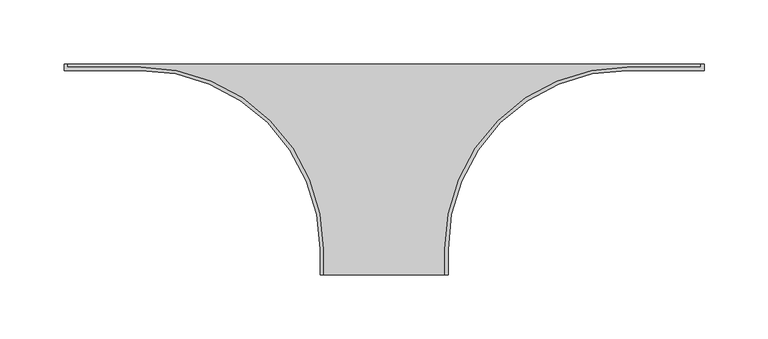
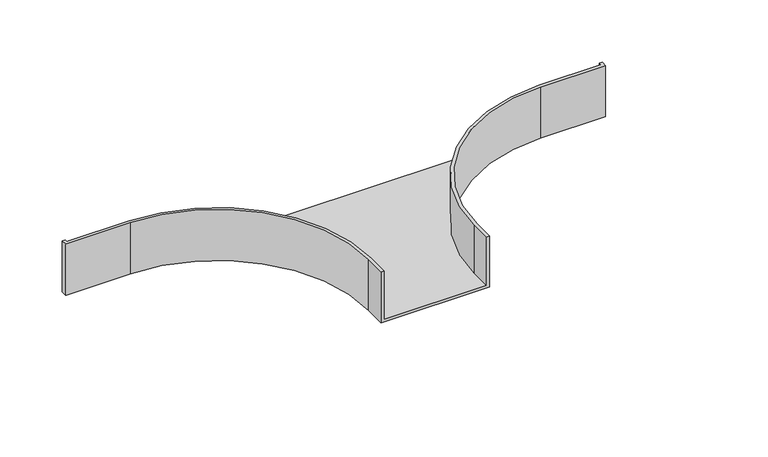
"""IFC4 building model written with IfcOpenShell, lengths in millimetres: cable carrier fitting geometry, BAKS_Tee_TKZD : TKZDCH50."""

from ifc_helpers import new_model, si_unit, frame, origin, place, context, project, spatial, polyline, circle_curve, source, transform, mapped, element, save
from ifc_brep_helpers import plane_surface, cylinder_surface, revolved_surface, advanced_brep


def cable_carrier_fitting_c29a8226(model_context):
    return source(origin(), model_context, "Body", "AdvancedBrep", [
        advanced_brep(
        [(-50.0, -145.08, 25.0), (-50.0, -165.08, 25.0), (-47.46, -165.08, 25.0), (-47.46, -145.08, 25.0), (-190.0, -2.54, 25.0), (-247.46, -2.54, 25.0), (-247.46, 0.0, 25.0), (-250.0, 0.0, 25.0), (-250.0, -5.08, 25.0), (-190.0, -5.08, 25.0), (50.0, -145.08, 25.0), (190.0, -5.08, 25.0), (250.0, -5.08, 25.0), (250.0, 0.0, 25.0), (247.46, 0.0, 25.0), (247.46, -2.54, 25.0), (190.0, -2.54, 25.0), (47.46, -145.08, 25.0), (47.46, -165.08, 25.0), (50.0, -165.08, 25.0), (-50.0, -145.08, -25.0), (-190.0, -5.08, -25.0), (-250.0, -5.08, -25.0), (-250.0, 0.0, -25.0), (250.0, 0.0, -25.0), (250.0, -5.08, -25.0), (190.0, -5.08, -25.0), (50.0, -145.08, -25.0), (50.0, -165.08, -25.0), (-50.0, -165.08, -25.0), (-50.0, -145.08, -22.46), (47.46, -165.08, -22.46), (-47.46, -165.08, -22.46), (-47.46, -145.08, -22.46), (-190.0, -2.54, -22.46), (-247.46, -2.54, -22.46), (-190.0, -5.08, -22.46), (50.0, -145.08, -22.46), (190.0, -5.08, -22.46), (247.46, -2.54, -22.46), (190.0, -2.54, -22.46), (47.46, -145.08, -22.46), (247.46, 0.0, -22.46), (-247.46, 0.0, -22.46)],
        [
            (0, 1),
            (1, 2),
            (2, 3),
            (3, 4, circle_curve(frame((-190.0, -145.08, 25.0), z_axis=(0.0, 0.0, 1.0), x_axis=(1.0, 0.0, 0.0)), 142.54)),
            (4, 5),
            (5, 6),
            (6, 7),
            (7, 8),
            (8, 9),
            (9, 0, circle_curve(frame((-190.0, -145.08, 25.0), z_axis=(0.0, 0.0, -1.0), x_axis=(1.0, 0.0, 0.0)), 140.0)),
            (10, 11, circle_curve(frame((190.0, -145.08, 25.0), z_axis=(0.0, 0.0, -1.0), x_axis=(1.0, 0.0, 0.0)), 140.0)),
            (11, 12),
            (12, 13),
            (13, 14),
            (14, 15),
            (15, 16),
            (16, 17, circle_curve(frame((190.0, -145.08, 25.0), z_axis=(0.0, 0.0, 1.0), x_axis=(1.0, 0.0, 0.0)), 142.54)),
            (17, 18),
            (18, 19),
            (19, 10),
            (20, 21, circle_curve(frame((-190.0, -145.08, -25.0), z_axis=(0.0, 0.0, 1.0), x_axis=(1.0, 0.0, 0.0)), 140.0)),
            (21, 22),
            (22, 23),
            (23, 24),
            (24, 25),
            (25, 26),
            (26, 27, circle_curve(frame((190.0, -145.08, -25.0), z_axis=(0.0, 0.0, 1.0), x_axis=(1.0, 0.0, 0.0)), 140.0)),
            (27, 28),
            (28, 29),
            (29, 20),
            (29, 1),
            (0, 30),
            (30, 20),
            (28, 19),
            (18, 31),
            (31, 32),
            (32, 2),
            (32, 33),
            (33, 3),
            (33, 34, circle_curve(frame((-190.0, -145.08, -22.46), z_axis=(0.0, 0.0, 1.0), x_axis=(1.0, 0.0, 0.0)), 142.54)),
            (34, 4),
            (34, 35),
            (35, 5),
            (8, 22),
            (21, 36),
            (36, 9),
            (10, 37),
            (37, 27),
            (26, 38),
            (38, 11),
            (25, 12),
            (15, 39),
            (39, 40),
            (40, 16),
            (40, 41, circle_curve(frame((190.0, -145.08, -22.46), z_axis=(0.0, 0.0, 1.0), x_axis=(1.0, 0.0, 0.0)), 142.54)),
            (41, 17),
            (41, 31),
            (42, 43),
            (43, 35),
            (39, 42),
            (43, 6),
            (42, 14),
            (13, 24),
            (23, 7),
        ],
        [
            plane_surface(frame((-50.0, -145.08, 25.0), z_axis=(0.0, 0.0, 1.0), x_axis=(0.0, -1.0, 0.0))),
            plane_surface(frame((-50.0, -145.08, -25.0), z_axis=(0.0, 0.0, -1.0), x_axis=(0.0, 1.0, 0.0))),
            plane_surface(frame((-50.0, -145.08, 25.0), z_axis=(-1.0, 0.0, 0.0), x_axis=(0.0, 0.0, -1.0))),
            plane_surface(frame((-50.0, -165.08, 25.0), z_axis=(0.0, -1.0, 0.0), x_axis=(0.0, 0.0, -1.0))),
            plane_surface(frame((-47.46, -165.08, 25.0), z_axis=(1.0, 0.0, 0.0), x_axis=(0.0, 0.0, -1.0))),
            cylinder_surface(frame((-190.0, -145.08, -25.0), z_axis=(0.0, 0.0, 1.0), x_axis=(1.0, 0.0, 0.0)), 142.54),
            plane_surface(frame((-190.0, -2.54, 25.0), z_axis=(0.0, 1.0, 0.0), x_axis=(0.0, 0.0, -1.0))),
            plane_surface(frame((-250.0, -5.08, 25.0), z_axis=(0.0, -1.0, 0.0), x_axis=(0.0, 0.0, -1.0))),
            revolved_surface(polyline([(-50.0, -145.08, -25.0), (-50.0, -145.08, 25.0)]), (-190.0, -145.08, -25.0), (0.0, 0.0, -1.0)),
            revolved_surface(polyline([(330.0, -145.08, -25.0), (330.0, -145.08, 25.0)]), (190.0, -145.08, 0.0), (0.0, 0.0, -1.0)),
            plane_surface(frame((190.0, -5.08, 25.0), z_axis=(0.0, -1.0, 0.0), x_axis=(0.0, 0.0, -1.0))),
            plane_surface(frame((247.46, -2.54, 25.0), z_axis=(0.0, 1.0, 0.0), x_axis=(0.0, 0.0, -1.0))),
            cylinder_surface(frame((190.0, -145.08, 0.0), z_axis=(0.0, 0.0, 1.0), x_axis=(1.0, 0.0, 0.0)), 142.54),
            plane_surface(frame((47.46, -145.08, 25.0), z_axis=(-1.0, 0.0, 0.0), x_axis=(0.0, 0.0, -1.0))),
            plane_surface(frame((50.0, -165.08, 25.0), z_axis=(1.0, 0.0, 0.0), x_axis=(0.0, 0.0, -1.0))),
            plane_surface(frame((-50.0, -145.08, -22.46), z_axis=(0.0, 0.0, 1.0), x_axis=(0.0, -1.0, 0.0))),
            plane_surface(frame((-247.46, -2.54, 25.0), z_axis=(1.0, 0.0, 0.0), x_axis=(0.0, 0.0, -1.0))),
            plane_surface(frame((-247.46, 0.0, 25.0), z_axis=(0.0, 1.0, 0.0), x_axis=(0.0, 0.0, -1.0))),
            plane_surface(frame((-250.0, 0.0, 25.0), z_axis=(-1.0, 0.0, 0.0), x_axis=(0.0, 0.0, -1.0))),
            plane_surface(frame((250.0, -5.08, 25.0), z_axis=(1.0, 0.0, 0.0), x_axis=(0.0, 0.0, -1.0))),
            plane_surface(frame((247.46, 0.0, 25.0), z_axis=(-1.0, 0.0, 0.0), x_axis=(0.0, 0.0, -1.0))),
        ],
        [
            (0, [[1, 2, 3, 4, 5, 6, 7, 8, 9, 10]]),
            (0, [[11, 12, 13, 14, 15, 16, 17, 18, 19, 20]]),
            (1, [[21, 22, 23, 24, 25, 26, 27, 28, 29, 30]]),
            (2, [[31, -1, 32, 33, -30]]),
            (3, [[-2, -31, -29, 34, -19, 35, 36, 37]]),
            (4, [[-3, -37, 38, 39]]),
            (5, [[-4, -39, 40, 41]]),
            (6, [[-5, -41, 42, 43]]),
            (7, [[-9, 44, -22, 45, 46]]),
            (8, [[-10, -46, -45, -21, -33, -32]]),
            (9, [[-11, 47, 48, -27, 49, 50]]),
            (10, [[-12, -50, -49, -26, 51]]),
            (11, [[-16, 52, 53, 54]]),
            (12, [[-17, -54, 55, 56]]),
            (13, [[-18, -56, 57, -35]]),
            (14, [[-20, -34, -28, -48, -47]]),
            (15, [[58, 59, -42, -40, -38, -36, -57, -55, -53, 60]]),
            (16, [[-6, -43, -59, 61]]),
            (17, [[-7, -61, -58, 62, -14, 63, -24, 64]]),
            (18, [[-8, -64, -23, -44]]),
            (19, [[-13, -51, -25, -63]]),
            (20, [[-15, -62, -60, -52]]),
        ],
    ),
    ])


if __name__ == "__main__":
    model = new_model("IFC4")
    model_context = context("Model", 3, world=origin())
    ifc_project = project(units=[si_unit("LENGTHUNIT", "METRE", prefix="MILLI")], contexts=[model_context])
    site = spatial("IfcSite", under=ifc_project)
    building = spatial("IfcBuilding", under=site)
    placement = place(None, origin())
    cable_carrier_fitting_shape = cable_carrier_fitting_c29a8226(model_context)
    element("IfcCableCarrierFitting", 1, ObjectType="BAKS_Tee_TKZD : TKZDCH50", at=placement, inside=building, context=model_context, shape_type="MappedRepresentation", body=[
        mapped(cable_carrier_fitting_shape, transform((0.0, 0.0, 0.0), x_axis=(1.0, 0.0, 0.0), y_axis=(0.0, 1.0, 0.0), z_axis=(0.0, 0.0, 1.0))),
    ])
    save(model, "model.ifc")
